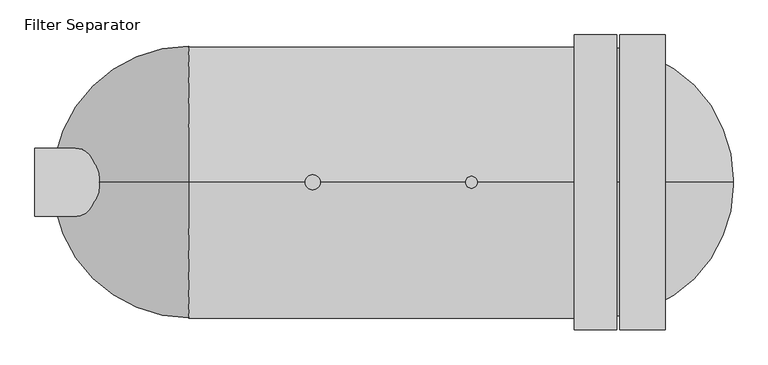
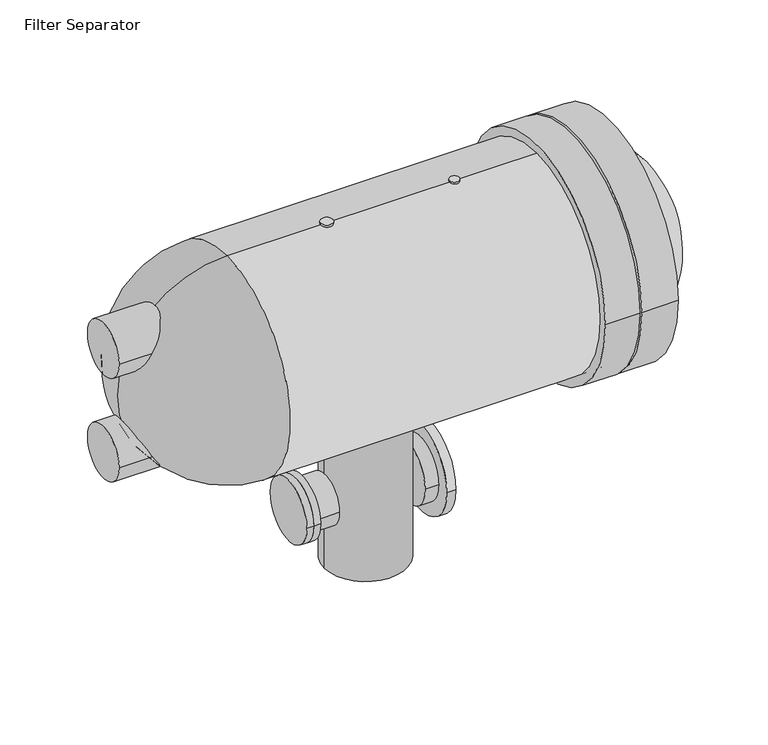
"""IFC4 building model written with IfcOpenShell, lengths in millimetres: proxy geometry, Filter Separator : Fitler Separator."""

from ifc_helpers import new_model, si_unit, point, frame, frame_2d, origin, place, context, project, spatial, circle_curve, ellipse_curve, trimmed, segment, composite_curve, outline, extrude, source, transform, mapped, element, save
from ifc_brep_helpers import plane_surface, cylinder_surface, revolved_surface, advanced_brep


def filter_separator_c1410004(model_context):
    return source(origin(), model_context, "Body", "SolidModel", [
        extrude(outline(composite_curve([segment(trimmed(circle_curve(frame_2d((-289.56, 1524.0)), 330.2), [point((-619.76, 1524.0))], [point((40.64, 1524.0))], False, "CARTESIAN"), True, "CONTINUOUS"), segment(trimmed(circle_curve(frame_2d((-289.56, 1524.0)), 330.2), [point((40.64, 1524.0))], [point((-619.76, 1524.0))], False, "CARTESIAN"), True, "CONTINUOUS")], self_intersect=False)), frame((-101.6, 0.0, 0.0), z_axis=(1.0, 0.0, 0.0), x_axis=(0.0, 1.0, 0.0)), (0.0, 0.0, 1.0), 101.6),
        extrude(outline(composite_curve([segment(trimmed(circle_curve(frame_2d((-289.56, 1524.0)), 330.2), [point((-619.76, 1524.0))], [point((40.64, 1524.0))], False, "CARTESIAN"), True, "CONTINUOUS"), segment(trimmed(circle_curve(frame_2d((-289.56, 1524.0)), 330.2), [point((40.64, 1524.0))], [point((-619.76, 1524.0))], False, "CARTESIAN"), True, "CONTINUOUS")], self_intersect=False)), frame((-203.2, 0.0, 0.0), z_axis=(1.0, 0.0, 0.0), x_axis=(0.0, 1.0, 0.0)), (0.0, 0.0, 1.0), 95.4946528),
        extrude(outline(composite_curve([segment(trimmed(circle_curve(frame_2d((-433.6518043, -289.56)), 13.335), [point((-446.9868043, -289.56))], [point((-420.3168043, -289.56))], False, "CARTESIAN"), True, "CONTINUOUS"), segment(trimmed(circle_curve(frame_2d((-433.6518043, -289.56)), 13.335), [point((-420.3168043, -289.56))], [point((-446.9868043, -289.56))], False, "CARTESIAN"), True, "CONTINUOUS")], self_intersect=False)), frame((0.0, 0.0, 1824.5290866), z_axis=(0.0, 0.0, 1.0), x_axis=(1.0, 0.0, 0.0)), (0.0, 0.0, 1.0), 8.7893889),
        extrude(outline(composite_curve([segment(trimmed(circle_curve(frame_2d((-789.2518043, -289.56)), 16.7005), [point((-805.9523043, -289.56))], [point((-772.5513043, -289.56))], False, "CARTESIAN"), True, "CONTINUOUS"), segment(trimmed(circle_curve(frame_2d((-789.2518043, -289.56)), 16.7005), [point((-772.5513043, -289.56))], [point((-805.9523043, -289.56))], False, "CARTESIAN"), True, "CONTINUOUS")], self_intersect=False)), frame((0.0, 0.0, 1824.5290866), z_axis=(0.0, 0.0, 1.0), x_axis=(1.0, 0.0, 0.0)), (0.0, 0.0, 1.0), 8.7893889),
        advanced_brep(
        [(-1066.8, -289.56, 1219.2), (-1066.8, -289.56, 1828.8), (-1371.6, -289.56, 1524.0), (-146.05, -289.56, 1219.2), (-146.05, -289.56, 1828.8), (152.4, -289.56, 1517.65), (152.4, -289.56, 1530.35), (152.4, -289.56, 1524.0)],
        [
            (0, 1, circle_curve(frame((-1066.8, -289.56, 1524.0), z_axis=(-1.0, 0.0, 0.0), x_axis=(0.0, 0.0, 1.0)), 304.8)),
            (1, 2, circle_curve(frame((-1066.8, -289.56, 1524.0), z_axis=(0.0, -1.0, 0.0), x_axis=(-1.0, 0.0, 0.0)), 304.8)),
            (2, 0, circle_curve(frame((-1066.8, -289.56, 1524.0), z_axis=(0.0, -1.0, 0.0), x_axis=(-1.0, 0.0, 0.0)), 304.8)),
            (1, 0, circle_curve(frame((-1066.8, -289.56, 1524.0), z_axis=(-1.0, 0.0, 0.0), x_axis=(0.0, 0.0, 1.0)), 304.8)),
            (3, 4, circle_curve(frame((-146.05, -289.56, 1524.0), z_axis=(-1.0, 0.0, 0.0), x_axis=(0.0, 0.0, 1.0)), 304.8)),
            (4, 1),
            (0, 3),
            (4, 3, circle_curve(frame((-146.05, -289.56, 1524.0), z_axis=(-1.0, 0.0, 0.0), x_axis=(0.0, 0.0, 1.0)), 304.8)),
            (5, 6, circle_curve(frame((152.4, -289.56, 1524.0), z_axis=(-1.0, 0.0, 0.0), x_axis=(0.0, 0.0, 1.0)), 6.35)),
            (6, 4, circle_curve(frame((-146.05, -289.56, 1530.35), z_axis=(0.0, -1.0, 0.0), x_axis=(-1.0, 0.0, 0.0)), 298.45)),
            (3, 5, circle_curve(frame((-146.05, -289.56, 1517.65), z_axis=(0.0, -1.0, 0.0), x_axis=(-1.0, 0.0, 0.0)), 298.45)),
            (6, 5, circle_curve(frame((152.4, -289.56, 1524.0), z_axis=(-1.0, 0.0, 0.0), x_axis=(0.0, 0.0, 1.0)), 6.35)),
            (7, 6),
            (5, 7),
        ],
        [
            revolved_surface(trimmed(ellipse_curve(frame((-1066.8, -289.56, 1524.0), z_axis=(0.0, 1.0, 0.0), x_axis=(-1.0, 0.0, 0.0)), 304.8, 304.8), [point((-1371.6, -289.56, 1524.0))], [point((-1066.8, -289.56, 1828.8))], True, "CARTESIAN"), (-1577.9357054, -289.56, 1524.0), (1.0, 0.0, 0.0)),
            cylinder_surface(frame((-1577.9357054, -289.56, 1524.0), z_axis=(1.0, 0.0, 0.0), x_axis=(0.0, 0.0, 1.0)), 304.8),
            revolved_surface(trimmed(ellipse_curve(frame((-146.05, -289.56, 1530.35), z_axis=(0.0, 1.0, 0.0), x_axis=(-1.0, 0.0, 0.0)), 298.45, 298.45), [point((-146.05, -289.56, 1828.8))], [point((152.4, -289.56, 1530.35))], True, "CARTESIAN"), (-1577.9357054, -289.56, 1524.0), (1.0, 0.0, 0.0)),
            plane_surface(frame((152.4, -289.56, 1524.0), z_axis=(1.0, 0.0, 0.0), x_axis=(0.0, 0.0, 1.0))),
        ],
        [
            (0, [[1, 2, 3]]),
            (0, [[4, -3, -2]]),
            (1, [[5, 6, -1, 7]]),
            (1, [[8, -7, -4, -6]]),
            (2, [[9, 10, -5, 11]]),
            (2, [[12, -11, -8, -10]]),
            (3, [[13, -9, 14]]),
            (3, [[-14, -12, -13]]),
        ],
    ),
        extrude(outline(composite_curve([segment(trimmed(circle_curve(frame_2d((-289.56, 1019.5209575)), 88.9), [point((-378.46, 1019.5209575))], [point((-200.66, 1019.5209575))], False, "CARTESIAN"), True, "CONTINUOUS"), segment(trimmed(circle_curve(frame_2d((-289.56, 1019.5209575)), 88.9), [point((-200.66, 1019.5209575))], [point((-378.46, 1019.5209575))], False, "CARTESIAN"), True, "CONTINUOUS")], self_intersect=False)), frame((-895.5324712, 0.0, 0.0), z_axis=(1.0, 0.0, 0.0), x_axis=(0.0, 1.0, 0.0)), (0.0, 0.0, 1.0), 19.05),
        extrude(outline(composite_curve([segment(trimmed(circle_curve(frame_2d((-289.56, 1019.5209575)), 88.9), [point((-378.46, 1019.5209575))], [point((-200.66, 1019.5209575))], False, "CARTESIAN"), True, "CONTINUOUS"), segment(trimmed(circle_curve(frame_2d((-289.56, 1019.5209575)), 88.9), [point((-200.66, 1019.5209575))], [point((-378.46, 1019.5209575))], False, "CARTESIAN"), True, "CONTINUOUS")], self_intersect=False)), frame((-876.4824712, 0.0, 0.0), z_axis=(1.0, 0.0, 0.0), x_axis=(0.0, 1.0, 0.0)), (0.0, 0.0, 1.0), 19.05),
        extrude(outline(composite_curve([segment(trimmed(circle_curve(frame_2d((-289.56, 1019.3457263)), 127.0), [point((-416.56, 1019.3457263))], [point((-162.56, 1019.3457263))], False, "CARTESIAN"), True, "CONTINUOUS"), segment(trimmed(circle_curve(frame_2d((-289.56, 1019.3457263)), 127.0), [point((-162.56, 1019.3457263))], [point((-416.56, 1019.3457263))], False, "CARTESIAN"), True, "CONTINUOUS")], self_intersect=False)), frame((-527.846108, 0.0, 0.0), z_axis=(1.0, 0.0, 0.0), x_axis=(0.0, 1.0, 0.0)), (0.0, 0.0, 1.0), 25.4),
        extrude(outline(composite_curve([segment(trimmed(circle_curve(frame_2d((-289.56, 1019.5209575)), 69.85), [point((-359.41, 1019.5209575))], [point((-219.71, 1019.5209575))], False, "CARTESIAN"), True, "CONTINUOUS"), segment(trimmed(circle_curve(frame_2d((-289.56, 1019.5209575)), 69.85), [point((-219.71, 1019.5209575))], [point((-359.41, 1019.5209575))], False, "CARTESIAN"), True, "CONTINUOUS")], self_intersect=False)), frame((-857.4324712, 0.0, 0.0), z_axis=(1.0, 0.0, 0.0), x_axis=(0.0, 1.0, 0.0)), (0.0, 0.0, 1.0), 63.5),
        extrude(outline(composite_curve([segment(trimmed(circle_curve(frame_2d((-289.56, 1019.6163787)), 88.9), [point((-378.46, 1019.6163787))], [point((-200.66, 1019.6163787))], False, "CARTESIAN"), True, "CONTINUOUS"), segment(trimmed(circle_curve(frame_2d((-289.56, 1019.6163787)), 88.9), [point((-200.66, 1019.6163787))], [point((-378.46, 1019.6163787))], False, "CARTESIAN"), True, "CONTINUOUS")], self_intersect=False)), frame((-565.946108, 0.0, 0.0), z_axis=(1.0, 0.0, 0.0), x_axis=(0.0, 1.0, 0.0)), (0.0, 0.0, 1.0), 38.1),
        extrude(outline(composite_curve([segment(trimmed(circle_curve(frame_2d((-680.25715, -288.0924095)), 114.3), [point((-794.55715, -288.0924095))], [point((-565.95715, -288.0924095))], False, "CARTESIAN"), True, "CONTINUOUS"), segment(trimmed(circle_curve(frame_2d((-680.25715, -288.0924095)), 114.3), [point((-565.95715, -288.0924095))], [point((-794.55715, -288.0924095))], False, "CARTESIAN"), True, "CONTINUOUS")], self_intersect=False)), frame((0.0, 0.0, 812.8), z_axis=(0.0, 0.0, 1.0), x_axis=(1.0, 0.0, 0.0)), (0.0, 0.0, 1.0), 431.1098013),
        extrude(outline(composite_curve([segment(trimmed(circle_curve(frame_2d((-289.56, 1371.6)), 76.2), [point((-365.76, 1371.6))], [point((-213.36, 1371.6))], False, "CARTESIAN"), True, "CONTINUOUS"), segment(trimmed(circle_curve(frame_2d((-289.56, 1371.6)), 76.2), [point((-213.36, 1371.6))], [point((-365.76, 1371.6))], False, "CARTESIAN"), True, "CONTINUOUS")], self_intersect=False)), frame((-1411.5518043, 0.0, 0.0), z_axis=(1.0, 0.0, 0.0), x_axis=(0.0, 1.0, 0.0)), (0.0, 0.0, 1.0), 142.7052214),
        extrude(outline(composite_curve([segment(trimmed(circle_curve(frame_2d((-289.56, 1676.4)), 76.2), [point((-365.76, 1676.4))], [point((-213.36, 1676.4))], False, "CARTESIAN"), True, "CONTINUOUS"), segment(trimmed(circle_curve(frame_2d((-289.56, 1676.4)), 76.2), [point((-213.36, 1676.4))], [point((-365.76, 1676.4))], False, "CARTESIAN"), True, "CONTINUOUS")], self_intersect=False)), frame((-1411.5518043, 0.0, 0.0), z_axis=(1.0, 0.0, 0.0), x_axis=(0.0, 1.0, 0.0)), (0.0, 0.0, 1.0), 144.3130291),
    ])


if __name__ == "__main__":
    model = new_model("IFC4")
    model_context = context("Model", 3, world=origin())
    ifc_project = project(units=[si_unit("LENGTHUNIT", "METRE", prefix="MILLI")], contexts=[model_context])
    site = spatial("IfcSite", under=ifc_project)
    building = spatial("IfcBuilding", under=site)
    placement = place(None, origin())
    filter_separator_shape = filter_separator_c1410004(model_context)
    element("IfcBuildingElementProxy", 1, Name="Filter Separator : Fitler Separator", ObjectType="Filter Separator : Fitler Separator", at=placement, inside=building, context=model_context, shape_type="MappedRepresentation", body=[
        mapped(filter_separator_shape, transform((0.0, 0.0, 0.0), x_axis=(1.0, 0.0, 0.0), y_axis=(0.0, 1.0, 0.0), z_axis=(0.0, 0.0, 1.0))),
    ])
    save(model, "model.ifc")
